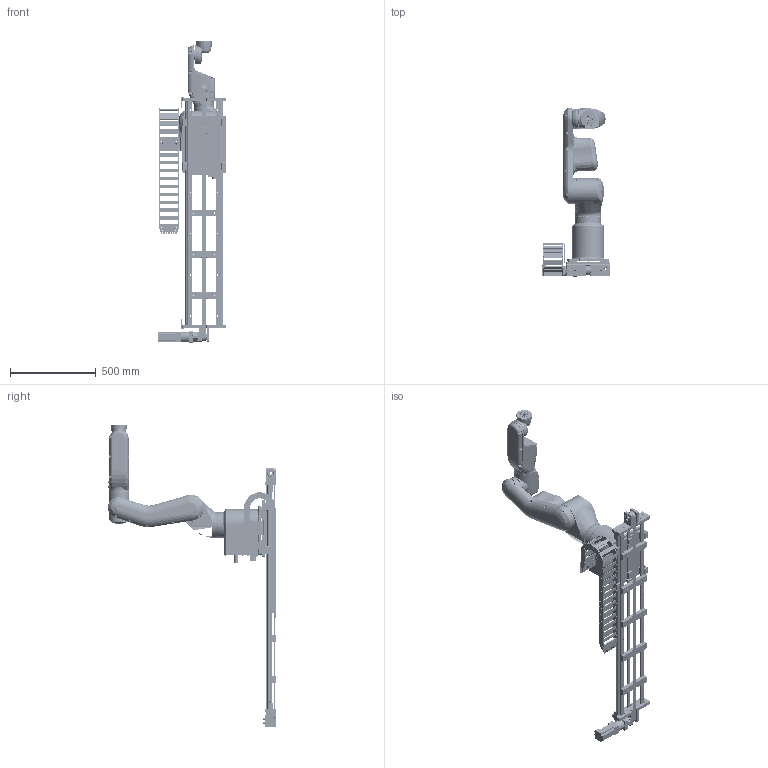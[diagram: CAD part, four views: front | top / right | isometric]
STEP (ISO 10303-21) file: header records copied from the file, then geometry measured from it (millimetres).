
FILE_DESCRIPTION(/* description */ (''),/* implementation_level */ '2;1');
FILE_NAME(/* name */ 'I:\Gleitlager\Konstruktion\SERIE NEU (im Aufbau!!)\drylin LCA\7. Achse\ZLW-20200S-7TH-EPS-01-xxxx\Epson\VT6\ZLW-20200S-7TH-EPS-01-1000 + VT6.stp',/* time_stamp */ '2021-04-20T15:03:42+02:00',/* author */ ('fkleine'),/* organization */ (''),/* preprocessor_version */ 'ST-DEVELOPER v18.1',/* originating_system */ 'Autodesk Inventor 2020',/* authorisation */ '');
FILE_SCHEMA (('AUTOMOTIVE_DESIGN { 1 0 10303 214 3 1 1 }'));
Length unit declared in the file: millimetre
Products named in the file (50): ZLW-20200S-7TH-EPS-01-xxxx; ZLW-20200S-K0BX0-D0K4B-BX0F0AE-xxxx; ZT-20200; ZTY-20200-001; NOR-10525; ZTY-20120-002; MH-06; NOR-20950; ZTY-20120-016; NOR-20516; NOR-10518; ZR-20120-001-ES-3028; WS-20-1340-C5=C6=70; ZSY-20200-001; NOR-10639; ZW-20200-300-WJ200UMA; ZWY-20200-001-300; ZWY-20120-003; GFM-0607-06; ZWY-20120-002; NOR-10601; NOR-10602; WJ200UMA-01-20-AL; WMA-01-20-AL; WRZ-012001; J200UMA-01-20-K; NOR-10590; MK-0517; COU-AR-K-140-140-42-40-B-AAAA; GEA-60-5-60-ST-080; E-GEA-60-10-60-ST; ZTY-1040109; NOR-11003; NOR-10552; MF-20120-GEAR60-S; ZTY-20120-018; ZTY-20120-006; NOR-10607; NOR-10610; MOT-AN-S-060-035-060-M-C-AAAC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
Assembly tree (103 placements, depth 5):
  ZLW-20200S-7TH-EPS-01-xxxx
    ZLW-20200S-K0BX0-D0K4B-BX0F0AE-xxxx
      ZT-20200  x2
        ZTY-20200-001
        NOR-10525
        MH-06
        ZTY-20120-002
        NOR-20950
        ZTY-20120-016
        NOR-20516
        NOR-10518
      ZR-20120-001-ES-3028
      WS-20-1340-C5=C6=70  x2
      ZSY-20200-001  x5
      NOR-10639  x10
      ZW-20200-300-WJ200UMA
        ZWY-20200-001-300
        ZWY-20120-002  x2
        ZWY-20120-003
        GFM-0607-06
        WJ200UMA-01-20-AL  x4
          WMA-01-20-AL
          WRZ-012001
          J200UMA-01-20-K
        NOR-10601  x6
        NOR-10602  x4
        NOR-10590
      IK-0107  x2
        INI-AB-I-025-B-AA
        ZTY-20120-029
        NOR-10129
        NOR-10726
      MK-0517
        COU-AR-K-140-140-42-40-B-AAAA
        GEA-60-5-60-ST-080
          E-GEA-60-10-60-ST
          ZTY-1040109
          NOR-11003  x4
          NOR-10552  x4
        MF-20120-GEAR60-S
          ZTY-20120-018
          ZTY-20120-006
          NOR-10607  x4
          NOR-10610  x8
        MOT-AN-S-060-035-060-M-C-AAAC
          1
          2
    2400_10_1
    AK-D00308495
    VT6
Bounding box: 393.2 x 982.99 x 1755 mm (x, y, z)
Volume: 36883119.5 mm3; surface area: 3416293.3 mm2
Topology: 157 solids, 161 shells, 9686 faces, 26666 edges, 17757 vertices
Faces by surface type: plane 5921, cylinder 2327, cone 683, torus 389, bspline 324, sphere 42
Full cylindrical faces by diameter (mm): 1.948 x2, 2.013 x2, 2.1 x2, 2.3 x2, 2.459 x8, 2.5 x18, 2.6 x4, 2.8 x9, 3 x22, 3.1 x6, 3.242 x32, 3.5 x20, 3.8 x6, 4 x11, 4.134 x27, 4.2 x4, 4.3 x4, 4.5 x2, 4.917 x17, 5 x23, 5.05 x1, 5.4 x8, 5.5 x31, 6 x48, 6.2 x4, 6.5 x12, 6.6 x1, 6.647 x38, 7 x69, 8 x49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
Entity records: 237761 total; most frequent: CARTESIAN_POINT 51236, ORIENTED_EDGE 37838, DIRECTION 37165, EDGE_CURVE 18927, VERTEX_POINT 12676, AXIS2_PLACEMENT_3D 12426, LINE 12313, VECTOR 12313
